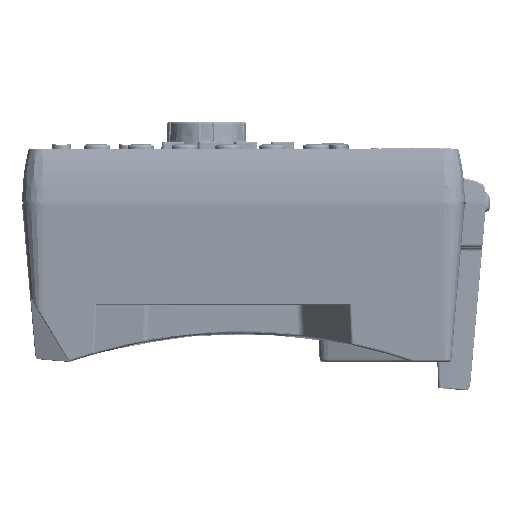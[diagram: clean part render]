
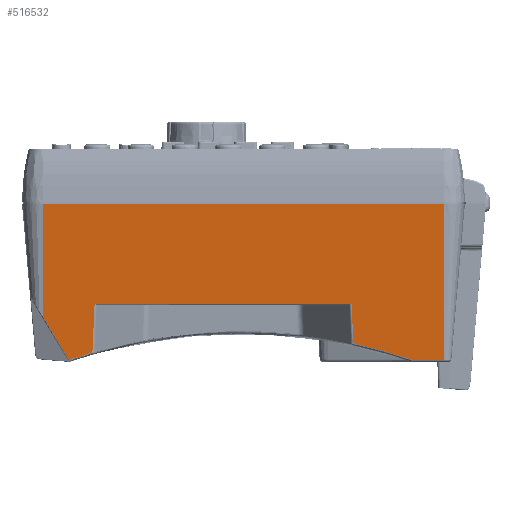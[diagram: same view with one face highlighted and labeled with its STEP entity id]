
A CAD part, left-side view. The second image highlights one B-rep face of the part: STEP entity #516532.
In plain terms, the highlighted planar face has unit normal (-0.996, 0, -0.087) as drawn and (-0.996, 0.087, 0) by its records, which use the part's own axes.
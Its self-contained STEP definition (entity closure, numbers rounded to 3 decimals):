
#352263=DIRECTION('',(0.,0.,1.));
#352264=VECTOR('',#352263,152.);
#352265=CARTESIAN_POINT('',(-170.,0.,-76.));
#352266=LINE('',#352265,#352264);
#358126=DIRECTION('',(-0.075,-0.855,0.513));
#358127=VECTOR('',#358126,19.091);
#358128=CARTESIAN_POINT('',(-164.829,59.101,
66.205));
#358129=LINE('',#358128,#358127);
#358133=DIRECTION('',(-0.087,-0.996,
0.));
#358134=VECTOR('',#358133,42.94);
#358135=CARTESIAN_POINT('',(-166.258,42.776,
76.));
#358136=LINE('',#358135,#358134);
#358157=DIRECTION('',(0.,0.,-1.));
#358158=VECTOR('',#358157,97.466);
#358159=CARTESIAN_POINT('',(-166.685,37.894,
56.463));
#358160=LINE('',#358159,#358158);
#358268=DIRECTION('',(0.087,0.995,-0.045));
#358269=VECTOR('',#358268,15.01);
#358270=CARTESIAN_POINT('',(-166.685,37.894,
-41.003));
#358271=LINE('',#358270,#358269);
#358293=CARTESIAN_POINT('',(-165.378,52.831,
-41.681));
#358304=CARTESIAN_POINT('',(-165.378,52.831,
-41.681));
#358305=CARTESIAN_POINT('',(-165.352,53.127,
-43.063));
#358306=CARTESIAN_POINT('',(-165.298,53.741,
-45.815));
#358307=CARTESIAN_POINT('',(-165.209,54.762,
-49.892));
#358308=CARTESIAN_POINT('',(-165.145,55.496,
-52.578));
#358309=CARTESIAN_POINT('',(-165.111,55.877,
-53.913));
#358338=CARTESIAN_POINT('',(-165.111,55.877,
-53.913));
#358339=CARTESIAN_POINT('',(-165.026,56.856,
-57.359));
#358340=CARTESIAN_POINT('',(-164.932,57.926,
-60.779));
#358341=CARTESIAN_POINT('',(-164.831,59.087,
-64.167));
#358369=DIRECTION('',(0.,0.,
-1.));
#358370=VECTOR('',#358369,11.833);
#358371=CARTESIAN_POINT('',(-164.831,59.087,
-64.167));
#358372=LINE('',#358371,#358370);
#388127=CARTESIAN_POINT('',(-164.829,59.101,
66.205));
#388128=CARTESIAN_POINT('',(-164.918,58.09,
63.26));
#388129=CARTESIAN_POINT('',(-165.,57.147,
60.291));
#388130=CARTESIAN_POINT('',(-165.077,56.275,
57.301));
#388151=DIRECTION('',(-0.087,-0.995,
-0.045));
#388152=VECTOR('',#388151,18.47);
#388153=CARTESIAN_POINT('',(-165.077,56.275,
57.301));
#388154=LINE('',#388153,#388152);
#488821=DIRECTION('',(-0.087,-0.996,
0.));
#488822=VECTOR('',#488821,59.313);
#488823=CARTESIAN_POINT('',(-164.831,59.087,
-76.));
#488824=LINE('',#488823,#488822);
#490590=CARTESIAN_POINT('',(-170.,0.,-76.));
#490592=VERTEX_POINT('',#490590);
#490593=CARTESIAN_POINT('',(-170.,0.,76.));
#490594=VERTEX_POINT('',#490593);
#491001=CARTESIAN_POINT('',(-166.258,42.776,
76.));
#491002=VERTEX_POINT('',#491001);
#491003=CARTESIAN_POINT('',(-164.829,59.101,
66.205));
#491004=VERTEX_POINT('',#491003);
#491005=CARTESIAN_POINT('',(-164.831,59.087,
-76.));
#491006=VERTEX_POINT('',#491005);
#491007=CARTESIAN_POINT('',(-164.831,59.087,
-64.167));
#491008=VERTEX_POINT('',#491007);
#491009=VERTEX_POINT('',#358338);
#491767=CARTESIAN_POINT('',(-165.077,56.275,
57.301));
#491769=VERTEX_POINT('',#491767);
#491781=VERTEX_POINT('',#358293);
#494129=CARTESIAN_POINT('',(-166.685,37.894,
56.463));
#494130=CARTESIAN_POINT('',(-166.685,37.894,
-41.003));
#494131=VERTEX_POINT('',#494129);
#494132=VERTEX_POINT('',#494130);
#516505=CARTESIAN_POINT('',(-170.,0.,-81.663));
#516506=DIRECTION('',(-0.996,0.087,0.));
#516507=DIRECTION('',(0.,0.,-1.));
#516508=AXIS2_PLACEMENT_3D('',#516505,#516506,#516507);
#516509=PLANE('',#516508);
#516511=ORIENTED_EDGE('',*,*,#516510,.F.);
#516513=ORIENTED_EDGE('',*,*,#516512,.F.);
#516515=ORIENTED_EDGE('',*,*,#516514,.F.);
#516517=ORIENTED_EDGE('',*,*,#516516,.T.);
#516518=ORIENTED_EDGE('',*,*,#516496,.T.);
#516519=ORIENTED_EDGE('',*,*,#510242,.F.);
#516521=ORIENTED_EDGE('',*,*,#516520,.F.);
#516523=ORIENTED_EDGE('',*,*,#516522,.F.);
#516525=ORIENTED_EDGE('',*,*,#516524,.F.);
#516527=ORIENTED_EDGE('',*,*,#516526,.F.);
#516529=ORIENTED_EDGE('',*,*,#516528,.F.);
#516530=EDGE_LOOP('',(#516511,#516513,#516515,#516517,#516518,#516519,#516521,
#516523,#516525,#516527,#516529));
#516531=FACE_OUTER_BOUND('',#516530,.F.);
#358310=B_SPLINE_CURVE_WITH_KNOTS('',3,(#358304,#358305,#358306,#358307,#358308,
#358309),.UNSPECIFIED.,.F.,.F.,(4,1,1,4),(0.,0.333,
0.667,1.),.UNSPECIFIED.);
#358342=B_SPLINE_CURVE_WITH_KNOTS('',3,(#358338,#358339,#358340,#358341),
.UNSPECIFIED.,.F.,.F.,(4,4),(0.,1.),.UNSPECIFIED.);
#388131=B_SPLINE_CURVE_WITH_KNOTS('',3,(#388127,#388128,#388129,#388130),
.UNSPECIFIED.,.F.,.F.,(4,4),(0.,1.),.UNSPECIFIED.);
#510242=EDGE_CURVE('',#490592,#490594,#352266,.T.);
#516496=EDGE_CURVE('',#491002,#490594,#358136,.T.);
#516510=EDGE_CURVE('',#494131,#494132,#358160,.T.);
#516512=EDGE_CURVE('',#491769,#494131,#388154,.T.);
#516514=EDGE_CURVE('',#491004,#491769,#388131,.T.);
#516516=EDGE_CURVE('',#491004,#491002,#358129,.T.);
#516520=EDGE_CURVE('',#491006,#490592,#488824,.T.);
#516522=EDGE_CURVE('',#491008,#491006,#358372,.T.);
#516524=EDGE_CURVE('',#491009,#491008,#358342,.T.);
#516526=EDGE_CURVE('',#491781,#491009,#358310,.T.);
#516528=EDGE_CURVE('',#494132,#491781,#358271,.T.);
#516532=ADVANCED_FACE('',(#516531),#516509,.T.);
